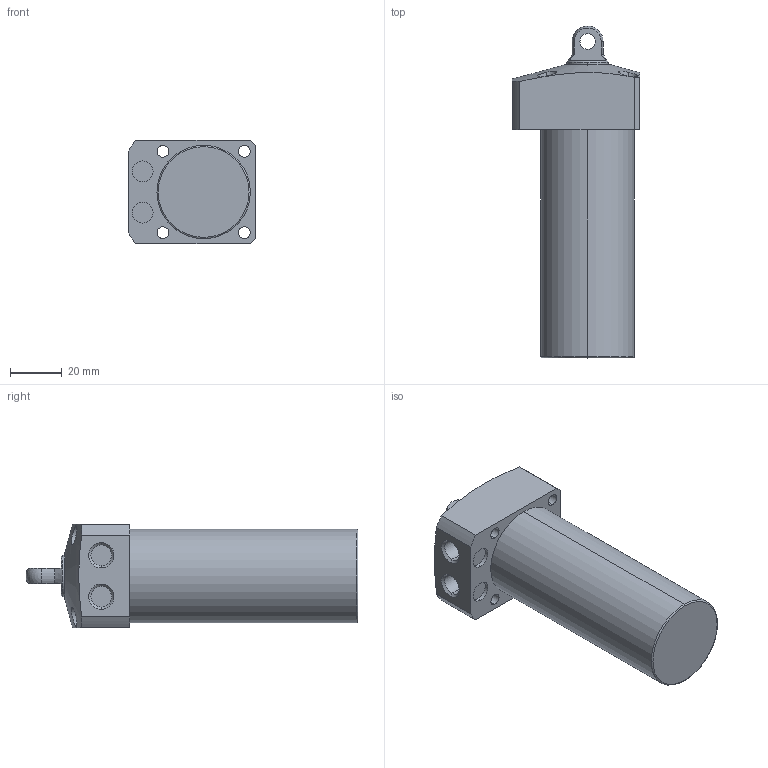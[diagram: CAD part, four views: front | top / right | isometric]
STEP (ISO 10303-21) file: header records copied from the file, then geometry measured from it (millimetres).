
FILE_DESCRIPTION (( 'STEP AP203' ), '1' );
FILE_NAME ('CLL036-CP-065.STEP', '2017-05-17T06:23:49', ( '' ), ( '' ), 'SwSTEP 2.0', 'SolidWorks 2015', '' );
FILE_SCHEMA (( 'CONFIG_CONTROL_DESIGN' ));
Length unit declared in the file: millimetre
Products named in the file (1): CLL036-CP-065
Bounding box: 49 x 128 x 40 mm (x, y, z)
Volume: 130961.8 mm3; surface area: 20000.4 mm2
Topology: 1 solids, 1 shells, 67 faces, 162 edges, 105 vertices
Faces by surface type: cylinder 34, plane 21, cone 8, sphere 2, torus 2
Entity records: 2347 total; most frequent: CARTESIAN_POINT 663, DIRECTION 354, ORIENTED_EDGE 316, EDGE_CURVE 158, AXIS2_PLACEMENT_3D 148, VERTEX_POINT 103, EDGE_LOOP 87, CIRCLE 80
